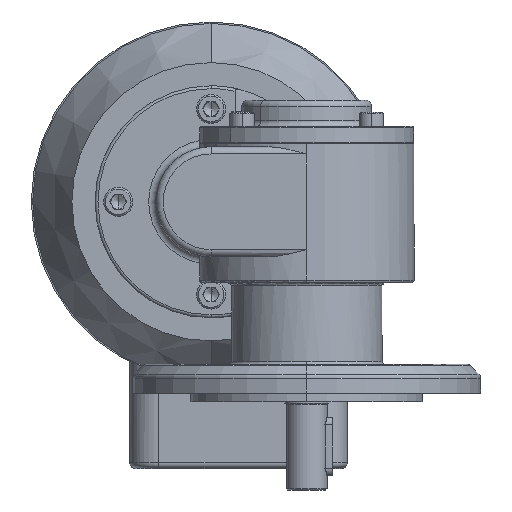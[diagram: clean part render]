
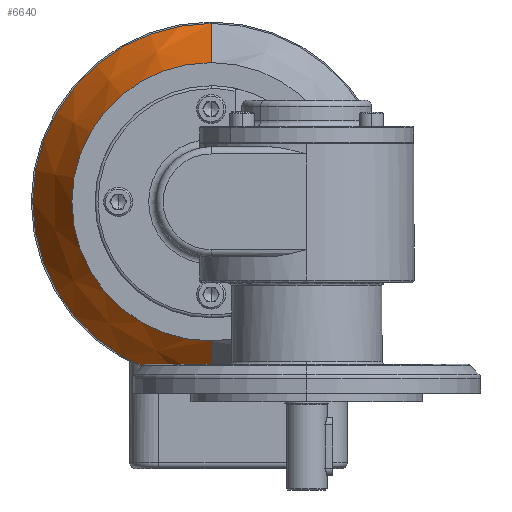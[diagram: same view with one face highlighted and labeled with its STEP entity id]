
A CAD part, left-side view. The second image highlights one B-rep face of the part: STEP entity #6640.
In plain terms, the highlighted conical face has half-angle 29.358 degrees and reference radius 48 mm.
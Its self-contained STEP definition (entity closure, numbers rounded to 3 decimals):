
#709 = LINE ( 'NONE', #1719, #11717 ) ;
#903 = VERTEX_POINT ( 'NONE', #7214 ) ;
#1201 = DIRECTION ( 'NONE',  ( 1., 0., 0. ) ) ;
#1202 = AXIS2_PLACEMENT_3D ( 'NONE', #12040, #6293, #6474 ) ;
#1380 = VERTEX_POINT ( 'NONE', #10868 ) ;
#1437 = CIRCLE ( 'NONE', #8735, 61.5 ) ;
#1719 = CARTESIAN_POINT ( 'NONE',  ( -49.152, 42.407, 77.7 ) ) ;
#1951 = DIRECTION ( 'NONE',  ( 1., 0., 0. ) ) ;
#2615 = CONICAL_SURFACE ( 'NONE', #8903, 48., 0.512 ) ;
#4216 = CARTESIAN_POINT ( 'NONE',  ( -25.152, 42.407, 91.2 ) ) ;
#4757 = CARTESIAN_POINT ( 'NONE',  ( -49.152, 42.407, -18.3 ) ) ;
#4823 = DIRECTION ( 'NONE',  ( 0.872, 0., -0.49 ) ) ;
#4951 = FACE_OUTER_BOUND ( 'NONE', #10586, .T. ) ;
#5079 = DIRECTION ( 'NONE',  ( 0., 0., 1. ) ) ;
#5254 = EDGE_CURVE ( 'NONE', #903, #5410, #6677, .T. ) ;
#5410 = VERTEX_POINT ( 'NONE', #7876 ) ;
#5841 = DIRECTION ( 'NONE',  ( 0., 0., 1. ) ) ;
#5845 = LINE ( 'NONE', #4757, #8293 ) ;
#6021 = CARTESIAN_POINT ( 'NONE',  ( -25.152, 42.407, 29.7 ) ) ;
#6293 = DIRECTION ( 'NONE',  ( 1., 0., 0. ) ) ;
#6474 = DIRECTION ( 'NONE',  ( 0., 0., 1. ) ) ;
#6640 = ADVANCED_FACE ( 'NONE', ( #4951 ), #2615, .T. ) ;
#6677 = CIRCLE ( 'NONE', #1202, 48. ) ;
#7214 = CARTESIAN_POINT ( 'NONE',  ( -49.152, 42.407, -18.3 ) ) ;
#7678 = EDGE_CURVE ( 'NONE', #5410, #9316, #709, .T. ) ;
#7876 = CARTESIAN_POINT ( 'NONE',  ( -49.152, 42.407, 77.7 ) ) ;
#7966 = ORIENTED_EDGE ( 'NONE', *, *, #8543, .F. ) ;
#8126 = ORIENTED_EDGE ( 'NONE', *, *, #5254, .T. ) ;
#8293 = VECTOR ( 'NONE', #4823, 1000. ) ;
#8543 = EDGE_CURVE ( 'NONE', #903, #1380, #5845, .T. ) ;
#8735 = AXIS2_PLACEMENT_3D ( 'NONE', #6021, #1201, #5079 ) ;
#8903 = AXIS2_PLACEMENT_3D ( 'NONE', #8909, #1951, #5841 ) ;
#8909 = CARTESIAN_POINT ( 'NONE',  ( -49.152, 42.407, 29.7 ) ) ;
#9316 = VERTEX_POINT ( 'NONE', #4216 ) ;
#10474 = DIRECTION ( 'NONE',  ( 0.872, 0., 0.49 ) ) ;
#10586 = EDGE_LOOP ( 'NONE', ( #7966, #8126, #10616, #11655 ) ) ;
#10616 = ORIENTED_EDGE ( 'NONE', *, *, #7678, .T. ) ;
#10868 = CARTESIAN_POINT ( 'NONE',  ( -25.152, 42.407, -31.8 ) ) ;
#11163 = EDGE_CURVE ( 'NONE', #1380, #9316, #1437, .T. ) ;
#11655 = ORIENTED_EDGE ( 'NONE', *, *, #11163, .F. ) ;
#11717 = VECTOR ( 'NONE', #10474, 1000. ) ;
#12040 = CARTESIAN_POINT ( 'NONE',  ( -49.152, 42.407, 29.7 ) ) ;
